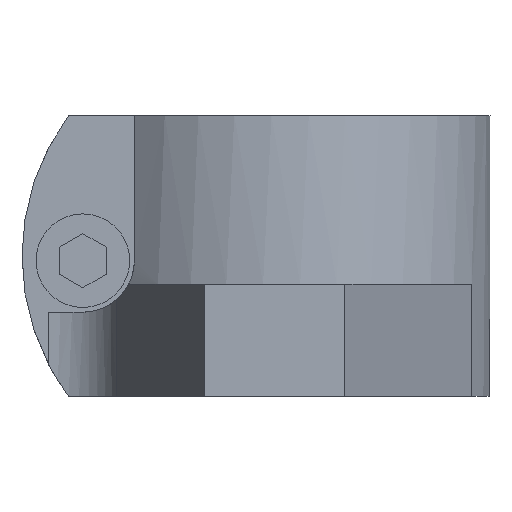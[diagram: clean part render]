
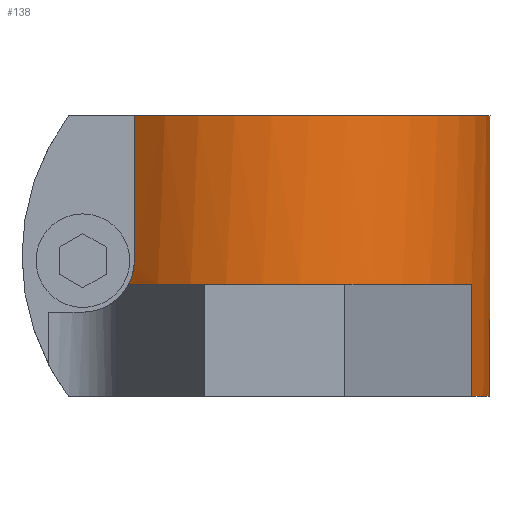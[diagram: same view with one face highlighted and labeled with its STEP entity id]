
A CAD part, left-side view. The second image highlights one B-rep face of the part: STEP entity #138.
In plain terms, the highlighted cylindrical face has radius 23 mm (diameter 46 mm), a partial arc.
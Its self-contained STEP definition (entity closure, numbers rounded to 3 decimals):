
#138=ADVANCED_FACE('',(#206),#207,.T.);
#206=FACE_OUTER_BOUND('',#309,.T.);
#207=CYLINDRICAL_SURFACE('',#310,23.0);
#309=EDGE_LOOP('',(#505,#506,#507,#508,#509,#510,#511,#512,#513));
#310=AXIS2_PLACEMENT_3D('',#514,#515,#516);
#505=ORIENTED_EDGE('',*,*,#717,.T.);
#506=ORIENTED_EDGE('',*,*,#769,.T.);
#507=ORIENTED_EDGE('',*,*,#770,.T.);
#508=ORIENTED_EDGE('',*,*,#761,.F.);
#509=ORIENTED_EDGE('',*,*,#750,.F.);
#510=ORIENTED_EDGE('',*,*,#771,.T.);
#511=ORIENTED_EDGE('',*,*,#772,.T.);
#512=ORIENTED_EDGE('',*,*,#726,.T.);
#513=ORIENTED_EDGE('',*,*,#773,.F.);
#514=CARTESIAN_POINT('',(0.0,0.0,18.0));
#515=DIRECTION('',(-0.0,-0.0,1.0));
#516=DIRECTION('',(0.0,-1.0,0.0));
#717=EDGE_CURVE('',#831,#829,#832,.T.);
#726=EDGE_CURVE('',#848,#849,#850,.T.);
#750=EDGE_CURVE('',#893,#895,#896,.T.);
#761=EDGE_CURVE('',#895,#909,#910,.T.);
#769=EDGE_CURVE('',#829,#921,#922,.T.);
#770=EDGE_CURVE('',#921,#909,#923,.T.);
#771=EDGE_CURVE('',#893,#924,#925,.T.);
#772=EDGE_CURVE('',#924,#848,#926,.T.);
#773=EDGE_CURVE('',#831,#849,#927,.T.);
#829=VERTEX_POINT('',#1037);
#831=VERTEX_POINT('',#1040);
#832=CIRCLE('',#1041,23.0);
#848=VERTEX_POINT('',#1063);
#849=VERTEX_POINT('',#1064);
#850=CIRCLE('',#1065,23.0);
#893=VERTEX_POINT('',#1137);
#895=VERTEX_POINT('',#1140);
#896=CIRCLE('',#1141,23.0);
#909=VERTEX_POINT('',#1159);
#910=LINE('',#1160,#1161);
#921=VERTEX_POINT('',#1175);
#922=LINE('',#1176,#1177);
#923=CIRCLE('',#1178,23.0);
#924=VERTEX_POINT('',#1179);
#925=LINE('',#1180,#1181);
#926=B_SPLINE_CURVE_WITH_KNOTS('',3,(#1182,#1183,#1184,#1185,#1186,#1187,#1188,#1189),.UNSPECIFIED.,.F.,.F.,(4,2,2,4),(0.0,0.001,0.002,0.003),.UNSPECIFIED.);
#927=LINE('',#1190,#1191);
#1037=CARTESIAN_POINT('',(9.279,-21.045,-12.0));
#1040=CARTESIAN_POINT('',(-9.279,-21.045,-12.0));
#1041=AXIS2_PLACEMENT_3D('',#1328,#1329,#1330);
#1063=CARTESIAN_POINT('',(-16.9,15.601,0.0));
#1064=CARTESIAN_POINT('',(-9.279,-21.045,0.0));
#1065=AXIS2_PLACEMENT_3D('',#1343,#1344,#1345);
#1137=CARTESIAN_POINT('',(-17.436,15.0,18.0));
#1140=CARTESIAN_POINT('',(15.333,17.143,18.0));
#1141=AXIS2_PLACEMENT_3D('',#1376,#1377,#1378);
#1159=CARTESIAN_POINT('',(15.333,17.143,0.0));
#1160=CARTESIAN_POINT('',(15.333,17.143,18.0));
#1161=VECTOR('',#1399,1.0);
#1175=CARTESIAN_POINT('',(9.279,-21.045,0.0));
#1176=CARTESIAN_POINT('',(9.279,-21.045,-12.0));
#1177=VECTOR('',#1415,1.0);
#1178=AXIS2_PLACEMENT_3D('',#1416,#1417,#1418);
#1179=CARTESIAN_POINT('',(-17.436,15.0,2.5));
#1180=CARTESIAN_POINT('',(-17.436,15.0,18.0));
#1181=VECTOR('',#1419,1.0);
#1182=CARTESIAN_POINT('',(-17.436,15.0,2.5));
#1183=CARTESIAN_POINT('',(-17.436,15.0,2.052));
#1184=CARTESIAN_POINT('',(-17.39,15.054,1.616));
#1185=CARTESIAN_POINT('',(-17.253,15.21,0.98));
#1186=CARTESIAN_POINT('',(-17.196,15.274,0.772));
#1187=CARTESIAN_POINT('',(-17.063,15.423,0.375));
#1188=CARTESIAN_POINT('',(-16.987,15.507,0.184));
#1189=CARTESIAN_POINT('',(-16.9,15.601,0.));
#1190=CARTESIAN_POINT('',(-9.279,-21.045,-12.0));
#1191=VECTOR('',#1420,1.0);
#1328=CARTESIAN_POINT('',(0.0,0.0,-12.0));
#1329=DIRECTION('',(0.0,0.0,1.0));
#1330=DIRECTION('',(1.0,0.0,0.0));
#1343=CARTESIAN_POINT('',(0.0,0.0,0.0));
#1344=DIRECTION('',(0.0,0.0,1.0));
#1345=DIRECTION('',(1.0,0.0,0.0));
#1376=CARTESIAN_POINT('',(0.0,0.0,18.0));
#1377=DIRECTION('',(0.0,0.0,1.0));
#1378=DIRECTION('',(1.0,0.0,0.0));
#1399=DIRECTION('',(0.0,0.0,-1.0));
#1415=DIRECTION('',(0.0,0.0,1.0));
#1416=CARTESIAN_POINT('',(0.0,0.0,0.0));
#1417=DIRECTION('',(0.0,0.0,1.0));
#1418=DIRECTION('',(1.0,0.0,0.0));
#1419=DIRECTION('',(0.0,0.0,-1.0));
#1420=DIRECTION('',(0.0,0.0,1.0));
